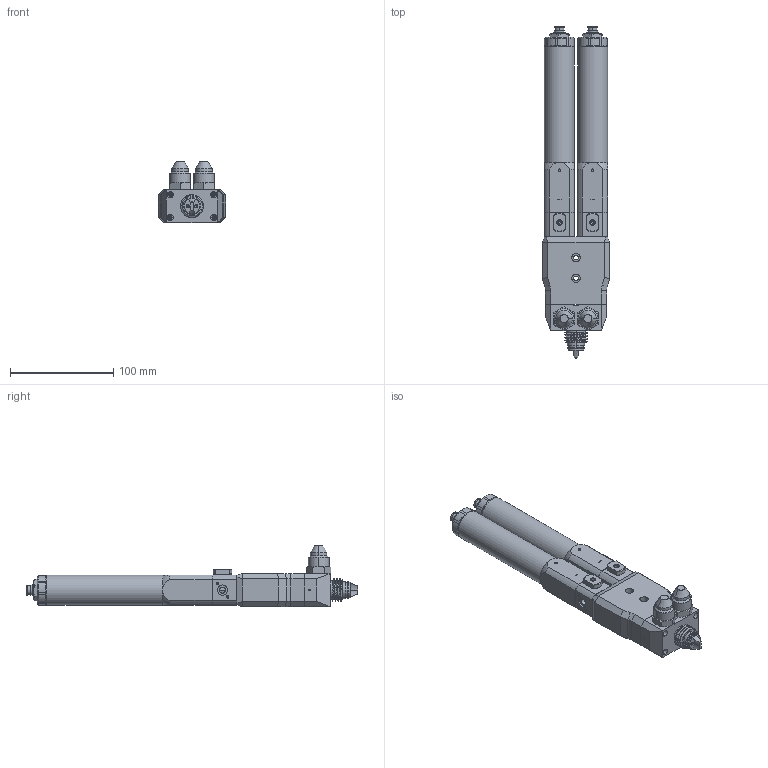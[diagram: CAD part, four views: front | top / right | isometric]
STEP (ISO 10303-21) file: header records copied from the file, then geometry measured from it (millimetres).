
FILE_DESCRIPTION (( 'STEP AP214' ), '1' );
FILE_NAME ('PDPM-150CA.STEP', '2024-10-11T12:05:05', ( '' ), ( '' ), 'SwSTEP 2.0', 'SolidWorks 2024', '' );
FILE_SCHEMA (( 'AUTOMOTIVE_DESIGN' ));
Length unit declared in the file: millimetre
Products named in the file (1): PDPM-150CA
Bounding box: 65 x 321 x 59.3 mm (x, y, z)
Volume: 465826.9 mm3; surface area: 104413.3 mm2
Topology: 12 solids, 12 shells, 1057 faces, 2556 edges, 1605 vertices
Faces by surface type: plane 424, cylinder 389, cone 215, torus 12, bspline 9, sphere 8
Full cylindrical faces by diameter (mm): 29 x2
Entity records: 37733 total; most frequent: CARTESIAN_POINT 13315, DIRECTION 5052, ORIENTED_EDGE 5044, EDGE_CURVE 2522, AXIS2_PLACEMENT_3D 2014, VERTEX_POINT 1605, EDGE_LOOP 1209, FACE_OUTER_BOUND 1059
